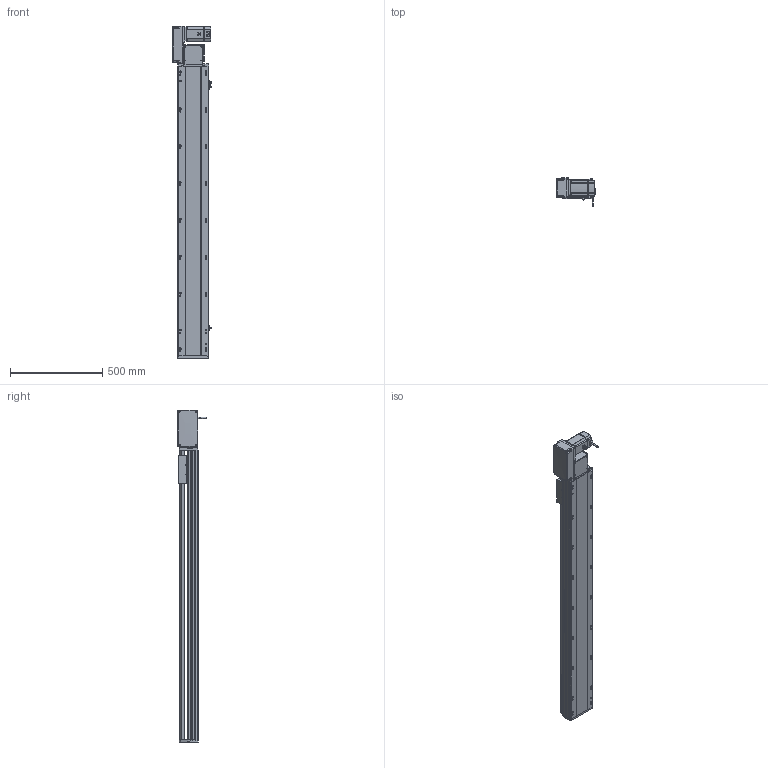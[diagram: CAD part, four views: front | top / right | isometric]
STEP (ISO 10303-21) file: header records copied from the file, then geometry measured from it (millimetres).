
FILE_DESCRIPTION (( 'STEP AP214' ), '1' );
FILE_NAME ('RTB17S-XX-1300-L-M75-C4.STEP', '2025-12-12T00:14:49', ( '' ), ( '' ), 'SwSTEP 2.0', 'SolidWorks 2018', '' );
FILE_SCHEMA (( 'AUTOMOTIVE_DESIGN' ));
Length unit declared in the file: millimetre
Products named in the file (15): EE672^RTB17S-XX-XX-L-M75-C4; RTB17S-L-001-耜醱啣^RTB17S-XX-XX-L-M75-C4; RTB22S-GY-008-M75--萇儂啣^RTB17S-L-々湍釱蚾饜-750W_RTB17S-XX-XX-L-M75-C4; RTH13-BL-012覜茼え俋离^RTB17S-賑釱_RTB17S-XX-XX-L-M75-C4; RTB22S-GY-018P^RTB17S-L-々湍釱蚾饜-750W_RTB17S-XX-XX-L-M75-C4; RTB17-R-011菁釱^RTB17S-XX-XX-L-M75-C4; RTB17S-L-007奻裔^RTB17S-XX-XX-L-M75-C4; RTB22S-GY-017P^RTB17S-L-々湍釱蚾饜-750W_RTB17S-XX-XX-L-M75-C4; RMP17S-L-014-T20-P75--々湍釱^RTB17S-L-々湍釱蚾饜-750W_RTB17S-XX-XX-L-M75-C4; RTB17S-L-004-賑釱^RTB17S-賑釱_RTB17S-XX-XX-L-M75-C4; 750W萇儂^RTB17S-XX-XX-L-M75-C4; RTB22S-GY-005P^RTB17S-L-々湍釱蚾饜-750W_RTB17S-XX-XX-L-M75-C4; RTB17S-賑釱^RTB17S-XX-XX-L-M75-C4; RTB17S-XX-1300-L-M75-C4; RTB17S-L-々湍釱蚾饜-750W^RTB17S-XX-XX-L-M75-C4
Assembly tree (17 placements, depth 3):
  RTB17S-XX-1300-L-M75-C4
    RTB17-R-011菁釱^RTB17S-XX-XX-L-M75-C4
    EE672^RTB17S-XX-XX-L-M75-C4  x3
    RTB17S-L-001-耜醱啣^RTB17S-XX-XX-L-M75-C4
    RTB17S-賑釱^RTB17S-XX-XX-L-M75-C4
      RTB17S-L-004-賑釱^RTB17S-賑釱_RTB17S-XX-XX-L-M75-C4
      RTH13-BL-012覜茼え俋离^RTB17S-賑釱_RTB17S-XX-XX-L-M75-C4
    RTB17S-L-007奻裔^RTB17S-XX-XX-L-M75-C4
    750W萇儂^RTB17S-XX-XX-L-M75-C4
    RTB17S-L-々湍釱蚾饜-750W^RTB17S-XX-XX-L-M75-C4
      RMP17S-L-014-T20-P75--々湍釱^RTB17S-L-々湍釱蚾饜-750W_RTB17S-XX-XX-L-M75-C4
      RTB22S-GY-005P^RTB17S-L-々湍釱蚾饜-750W_RTB17S-XX-XX-L-M75-C4
      RTB22S-GY-017P^RTB17S-L-々湍釱蚾饜-750W_RTB17S-XX-XX-L-M75-C4  x2
      RTB22S-GY-008-M75--萇儂啣^RTB17S-L-々湍釱蚾饜-750W_RTB17S-XX-XX-L-M75-C4
      RTB22S-GY-018P^RTB17S-L-々湍釱蚾饜-750W_RTB17S-XX-XX-L-M75-C4
Bounding box: 210.4 x 152.7 x 1799 mm (x, y, z)
Volume: 14073865.6 mm3; surface area: 2440317.1 mm2
Topology: 17 solids, 17 shells, 2121 faces, 5890 edges, 3806 vertices
Faces by surface type: plane 974, cylinder 731, bspline 294, cone 110, sphere 8, torus 4
Entity records: 59638 total; most frequent: CARTESIAN_POINT 17554, ORIENTED_EDGE 8624, DIRECTION 8042, EDGE_CURVE 4312, AXIS2_PLACEMENT_3D 2826, VERTEX_POINT 2810, LINE 2390, VECTOR 2390
